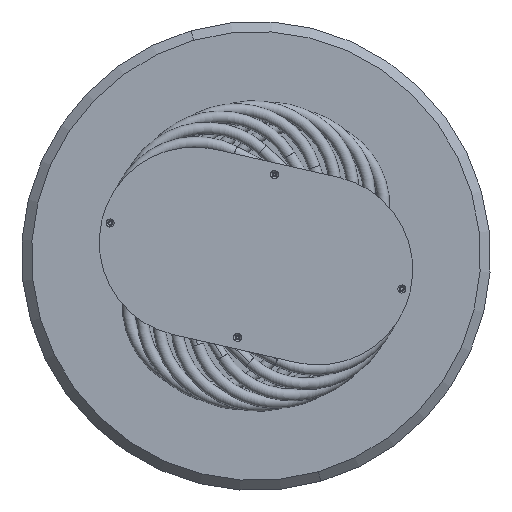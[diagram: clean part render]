
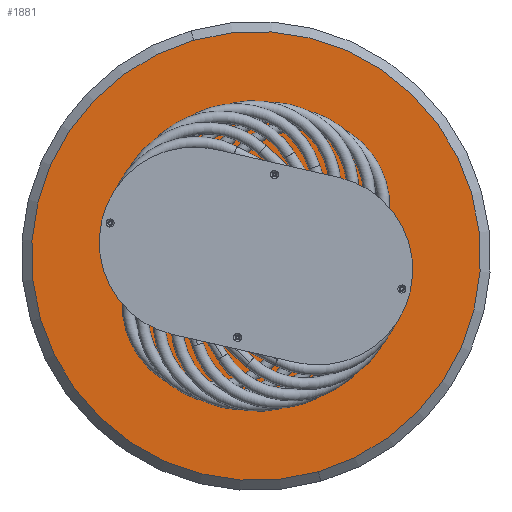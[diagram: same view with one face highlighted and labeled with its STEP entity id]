
A CAD part, front view. The second image highlights one B-rep face of the part: STEP entity #1881.
In plain terms, the highlighted planar face has unit normal (0, -1, 0).
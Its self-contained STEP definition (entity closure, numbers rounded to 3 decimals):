
#37 = CARTESIAN_POINT ( 'NONE',  ( 0., 0., 383. ) ) ;
#152 = ORIENTED_EDGE ( 'NONE', *, *, #4586, .T. ) ;
#158 = CARTESIAN_POINT ( 'NONE',  ( 0., 0., -3.4 ) ) ;
#396 = FACE_BOUND ( 'NONE', #2521, .T. ) ;
#651 = VERTEX_POINT ( 'NONE', #3810 ) ;
#728 = CIRCLE ( 'NONE', #7370, 3.4 ) ;
#799 = VERTEX_POINT ( 'NONE', #158 ) ;
#805 = DIRECTION ( 'NONE',  ( 0., 0., -1. ) ) ;
#839 = DIRECTION ( 'NONE',  ( 0., -1., 0. ) ) ;
#873 = CIRCLE ( 'NONE', #5853, 3.4 ) ;
#926 = CARTESIAN_POINT ( 'NONE',  ( -95., 0., -54.848 ) ) ;
#1003 = CARTESIAN_POINT ( 'NONE',  ( -95., 0., -58.248 ) ) ;
#1069 = CIRCLE ( 'NONE', #1959, 3.4 ) ;
#1203 = AXIS2_PLACEMENT_3D ( 'NONE', #4731, #7166, #5433 ) ;
#1246 = VERTEX_POINT ( 'NONE', #6322 ) ;
#1262 = CIRCLE ( 'NONE', #1868, 3.4 ) ;
#1287 = EDGE_CURVE ( 'NONE', #7799, #651, #1262, .T. ) ;
#1313 = DIRECTION ( 'NONE',  ( 0., -1., 0. ) ) ;
#1437 = CARTESIAN_POINT ( 'NONE',  ( 0., 0., 109.697 ) ) ;
#1449 = DIRECTION ( 'NONE',  ( 0., 0., -1. ) ) ;
#1524 = CARTESIAN_POINT ( 'NONE',  ( 0., 0., 109.697 ) ) ;
#1592 = DIRECTION ( 'NONE',  ( 0., -1., 0. ) ) ;
#1857 = CIRCLE ( 'NONE', #3148, 3.4 ) ;
#1868 = AXIS2_PLACEMENT_3D ( 'NONE', #1437, #839, #3285 ) ;
#1881 = ADVANCED_FACE ( 'NONE', ( #396, #3953, #5112, #5750, #3422 ), #6938, .T. ) ;
#1899 = VERTEX_POINT ( 'NONE', #5871 ) ;
#1907 = CARTESIAN_POINT ( 'NONE',  ( 95., 0., -54.848 ) ) ;
#1959 = AXIS2_PLACEMENT_3D ( 'NONE', #4633, #1592, #4028 ) ;
#2090 = DIRECTION ( 'NONE',  ( 0., 0., -1. ) ) ;
#2096 = CIRCLE ( 'NONE', #6817, 3.4 ) ;
#2515 = DIRECTION ( 'NONE',  ( 0., -1., 0. ) ) ;
#2521 = EDGE_LOOP ( 'NONE', ( #6973, #6945 ) ) ;
#2657 = CARTESIAN_POINT ( 'NONE',  ( 0., 0., 106.297 ) ) ;
#2707 = ORIENTED_EDGE ( 'NONE', *, *, #5624, .T. ) ;
#2744 = DIRECTION ( 'NONE',  ( 0., 0., -1. ) ) ;
#2909 = ORIENTED_EDGE ( 'NONE', *, *, #6146, .F. ) ;
#2998 = ORIENTED_EDGE ( 'NONE', *, *, #7477, .F. ) ;
#3148 = AXIS2_PLACEMENT_3D ( 'NONE', #926, #7009, #3366 ) ;
#3250 = CARTESIAN_POINT ( 'NONE',  ( 0., 0., 0. ) ) ;
#3285 = DIRECTION ( 'NONE',  ( 0., 0., -1. ) ) ;
#3366 = DIRECTION ( 'NONE',  ( 0., 0., -1. ) ) ;
#3422 = FACE_BOUND ( 'NONE', #6381, .T. ) ;
#3719 = ORIENTED_EDGE ( 'NONE', *, *, #4980, .F. ) ;
#3771 = AXIS2_PLACEMENT_3D ( 'NONE', #3840, #6287, #805 ) ;
#3810 = CARTESIAN_POINT ( 'NONE',  ( 0., 0., 113.097 ) ) ;
#3840 = CARTESIAN_POINT ( 'NONE',  ( 0., 0., 0. ) ) ;
#3849 = ORIENTED_EDGE ( 'NONE', *, *, #1287, .F. ) ;
#3953 = FACE_BOUND ( 'NONE', #5141, .T. ) ;
#4028 = DIRECTION ( 'NONE',  ( 0., 0., -1. ) ) ;
#4150 = AXIS2_PLACEMENT_3D ( 'NONE', #5188, #7561, #5786 ) ;
#4216 = CARTESIAN_POINT ( 'NONE',  ( -95., 0., -51.448 ) ) ;
#4402 = DIRECTION ( 'NONE',  ( 0., 0., -1. ) ) ;
#4419 = VERTEX_POINT ( 'NONE', #5140 ) ;
#4458 = DIRECTION ( 'NONE',  ( 0., 0., -1. ) ) ;
#4586 = EDGE_CURVE ( 'NONE', #1246, #7879, #7224, .T. ) ;
#4633 = CARTESIAN_POINT ( 'NONE',  ( -95., 0., -54.848 ) ) ;
#4731 = CARTESIAN_POINT ( 'NONE',  ( 0., 0., 0. ) ) ;
#4967 = DIRECTION ( 'NONE',  ( 0., -1., 0. ) ) ;
#4980 = EDGE_CURVE ( 'NONE', #1899, #799, #7107, .T. ) ;
#5112 = FACE_BOUND ( 'NONE', #5361, .T. ) ;
#5140 = CARTESIAN_POINT ( 'NONE',  ( 95., 0., -58.248 ) ) ;
#5141 = EDGE_LOOP ( 'NONE', ( #3849, #2998 ) ) ;
#5178 = CARTESIAN_POINT ( 'NONE',  ( 95., 0., -54.848 ) ) ;
#5188 = CARTESIAN_POINT ( 'NONE',  ( 0., 0., 0. ) ) ;
#5210 = CIRCLE ( 'NONE', #7512, 383. ) ;
#5361 = EDGE_LOOP ( 'NONE', ( #5861, #6835 ) ) ;
#5433 = DIRECTION ( 'NONE',  ( 0., 0., -1. ) ) ;
#5504 = VERTEX_POINT ( 'NONE', #4216 ) ;
#5603 = CARTESIAN_POINT ( 'NONE',  ( 0., 0., 0. ) ) ;
#5624 = EDGE_CURVE ( 'NONE', #7879, #1246, #5210, .T. ) ;
#5720 = EDGE_CURVE ( 'NONE', #4419, #6630, #5847, .T. ) ;
#5750 = FACE_OUTER_BOUND ( 'NONE', #7053, .T. ) ;
#5779 = DIRECTION ( 'NONE',  ( 0., -1., 0. ) ) ;
#5786 = DIRECTION ( 'NONE',  ( 0., 0., -1. ) ) ;
#5847 = CIRCLE ( 'NONE', #6728, 3.4 ) ;
#5853 = AXIS2_PLACEMENT_3D ( 'NONE', #5603, #4967, #4458 ) ;
#5861 = ORIENTED_EDGE ( 'NONE', *, *, #5720, .F. ) ;
#5871 = CARTESIAN_POINT ( 'NONE',  ( 0., 0., 3.4 ) ) ;
#6064 = EDGE_CURVE ( 'NONE', #6630, #4419, #728, .T. ) ;
#6146 = EDGE_CURVE ( 'NONE', #799, #1899, #873, .T. ) ;
#6248 = EDGE_CURVE ( 'NONE', #5504, #7017, #1857, .T. ) ;
#6287 = DIRECTION ( 'NONE',  ( 0., -1., 0. ) ) ;
#6322 = CARTESIAN_POINT ( 'NONE',  ( 0., 0., -383. ) ) ;
#6381 = EDGE_LOOP ( 'NONE', ( #2909, #3719 ) ) ;
#6478 = DIRECTION ( 'NONE',  ( 0., -1., 0. ) ) ;
#6630 = VERTEX_POINT ( 'NONE', #7312 ) ;
#6728 = AXIS2_PLACEMENT_3D ( 'NONE', #5178, #5779, #2090 ) ;
#6817 = AXIS2_PLACEMENT_3D ( 'NONE', #1524, #6478, #2744 ) ;
#6835 = ORIENTED_EDGE ( 'NONE', *, *, #6064, .F. ) ;
#6938 = PLANE ( 'NONE',  #4150 ) ;
#6945 = ORIENTED_EDGE ( 'NONE', *, *, #6248, .F. ) ;
#6973 = ORIENTED_EDGE ( 'NONE', *, *, #7465, .F. ) ;
#7009 = DIRECTION ( 'NONE',  ( 0., -1., 0. ) ) ;
#7017 = VERTEX_POINT ( 'NONE', #1003 ) ;
#7053 = EDGE_LOOP ( 'NONE', ( #2707, #152 ) ) ;
#7107 = CIRCLE ( 'NONE', #3771, 3.4 ) ;
#7166 = DIRECTION ( 'NONE',  ( 0., -1., 0. ) ) ;
#7224 = CIRCLE ( 'NONE', #1203, 383. ) ;
#7312 = CARTESIAN_POINT ( 'NONE',  ( 95., 0., -51.448 ) ) ;
#7370 = AXIS2_PLACEMENT_3D ( 'NONE', #1907, #1313, #4402 ) ;
#7465 = EDGE_CURVE ( 'NONE', #7017, #5504, #1069, .T. ) ;
#7477 = EDGE_CURVE ( 'NONE', #651, #7799, #2096, .T. ) ;
#7512 = AXIS2_PLACEMENT_3D ( 'NONE', #3250, #2515, #1449 ) ;
#7561 = DIRECTION ( 'NONE',  ( 0., -1., 0. ) ) ;
#7799 = VERTEX_POINT ( 'NONE', #2657 ) ;
#7879 = VERTEX_POINT ( 'NONE', #37 ) ;
